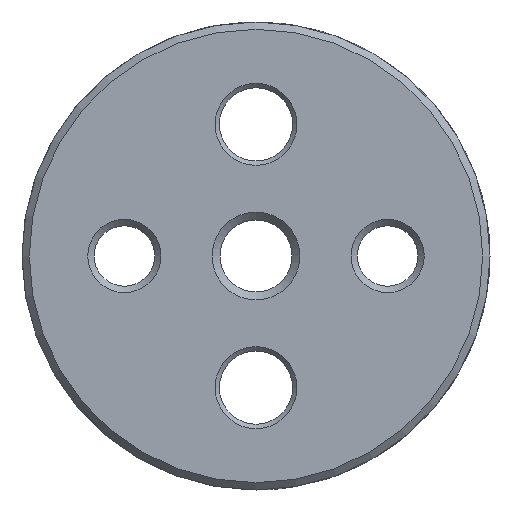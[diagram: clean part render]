
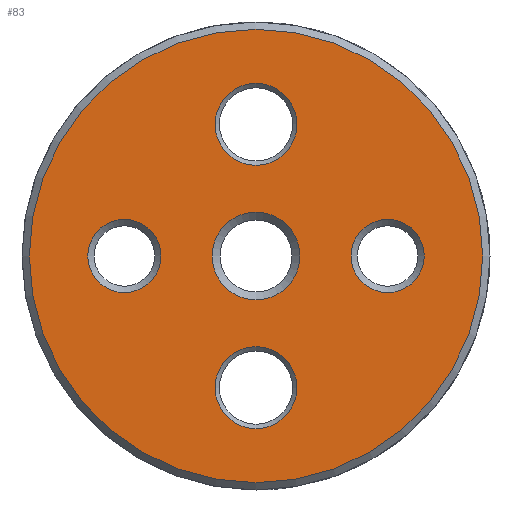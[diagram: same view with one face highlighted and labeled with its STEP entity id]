
A CAD part, front view. The second image highlights one B-rep face of the part: STEP entity #83.
In plain terms, the highlighted planar face has unit normal (0, -1, 0).
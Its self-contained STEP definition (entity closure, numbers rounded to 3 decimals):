
#83 = ADVANCED_FACE( '', ( #130, #131, #132, #133, #134, #135 ), #136, .F. );
#130 = FACE_BOUND( '', #220, .T. );
#131 = FACE_BOUND( '', #221, .T. );
#132 = FACE_BOUND( '', #222, .T. );
#133 = FACE_BOUND( '', #223, .T. );
#134 = FACE_BOUND( '', #224, .T. );
#135 = FACE_OUTER_BOUND( '', #225, .T. );
#136 = PLANE( '', #226 );
#220 = EDGE_LOOP( '', ( #357 ) );
#221 = EDGE_LOOP( '', ( #358 ) );
#222 = EDGE_LOOP( '', ( #359 ) );
#223 = EDGE_LOOP( '', ( #360 ) );
#224 = EDGE_LOOP( '', ( #361 ) );
#225 = EDGE_LOOP( '', ( #362 ) );
#226 = AXIS2_PLACEMENT_3D( '', #363, #364, #365 );
#357 = ORIENTED_EDGE( '', *, *, #527, .F. );
#358 = ORIENTED_EDGE( '', *, *, #528, .F. );
#359 = ORIENTED_EDGE( '', *, *, #529, .F. );
#360 = ORIENTED_EDGE( '', *, *, #530, .F. );
#361 = ORIENTED_EDGE( '', *, *, #531, .F. );
#362 = ORIENTED_EDGE( '', *, *, #532, .T. );
#363 = CARTESIAN_POINT( '', ( 15.5, 0., 0. ) );
#364 = DIRECTION( '', ( 0., 1., 0. ) );
#365 = DIRECTION( '', ( 0., 0., 1. ) );
#527 = EDGE_CURVE( '', #611, #611, #612, .T. );
#528 = EDGE_CURVE( '', #613, #613, #614, .F. );
#529 = EDGE_CURVE( '', #615, #615, #616, .T. );
#530 = EDGE_CURVE( '', #617, #617, #618, .T. );
#531 = EDGE_CURVE( '', #619, #619, #620, .T. );
#532 = EDGE_CURVE( '', #621, #621, #622, .T. );
#611 = VERTEX_POINT( '', #818 );
#612 = CIRCLE( '', #819, 3. );
#613 = VERTEX_POINT( '', #820 );
#614 = CIRCLE( '', #821, 2.5 );
#615 = VERTEX_POINT( '', #822 );
#616 = CIRCLE( '', #823, 2.8 );
#617 = VERTEX_POINT( '', #824 );
#618 = CIRCLE( '', #825, 2.8 );
#619 = VERTEX_POINT( '', #826 );
#620 = CIRCLE( '', #827, 2.5 );
#621 = VERTEX_POINT( '', #828 );
#622 = CIRCLE( '', #829, 15.5 );
#818 = CARTESIAN_POINT( '', ( 0., 0., -3. ) );
#819 = AXIS2_PLACEMENT_3D( '', #931, #932, #933 );
#820 = CARTESIAN_POINT( '', ( 9., 0., 2.5 ) );
#821 = AXIS2_PLACEMENT_3D( '', #934, #935, #936 );
#822 = CARTESIAN_POINT( '', ( 0., 0., 6.2 ) );
#823 = AXIS2_PLACEMENT_3D( '', #937, #938, #939 );
#824 = CARTESIAN_POINT( '', ( 0., 0., -11.8 ) );
#825 = AXIS2_PLACEMENT_3D( '', #940, #941, #942 );
#826 = CARTESIAN_POINT( '', ( -9., 0., -2.5 ) );
#827 = AXIS2_PLACEMENT_3D( '', #943, #944, #945 );
#828 = CARTESIAN_POINT( '', ( 0., 0., -15.5 ) );
#829 = AXIS2_PLACEMENT_3D( '', #946, #947, #948 );
#931 = CARTESIAN_POINT( '', ( 0., 0., 0. ) );
#932 = DIRECTION( '', ( 0., -1., 0. ) );
#933 = DIRECTION( '', ( 0., 0., -1. ) );
#934 = CARTESIAN_POINT( '', ( 9., 0., 0. ) );
#935 = DIRECTION( '', ( 0., 1., 0. ) );
#936 = DIRECTION( '', ( 0., 0., 1. ) );
#937 = CARTESIAN_POINT( '', ( 0., 0., 9. ) );
#938 = DIRECTION( '', ( 0., -1., 0. ) );
#939 = DIRECTION( '', ( 0., 0., -1. ) );
#940 = CARTESIAN_POINT( '', ( 0., 0., -9. ) );
#941 = DIRECTION( '', ( 0., -1., 0. ) );
#942 = DIRECTION( '', ( 0., 0., -1. ) );
#943 = CARTESIAN_POINT( '', ( -9., 0., 0. ) );
#944 = DIRECTION( '', ( 0., -1., 0. ) );
#945 = DIRECTION( '', ( 0., 0., -1. ) );
#946 = CARTESIAN_POINT( '', ( 0., 0., 0. ) );
#947 = DIRECTION( '', ( 0., -1., 0. ) );
#948 = DIRECTION( '', ( 0., 0., -1. ) );
